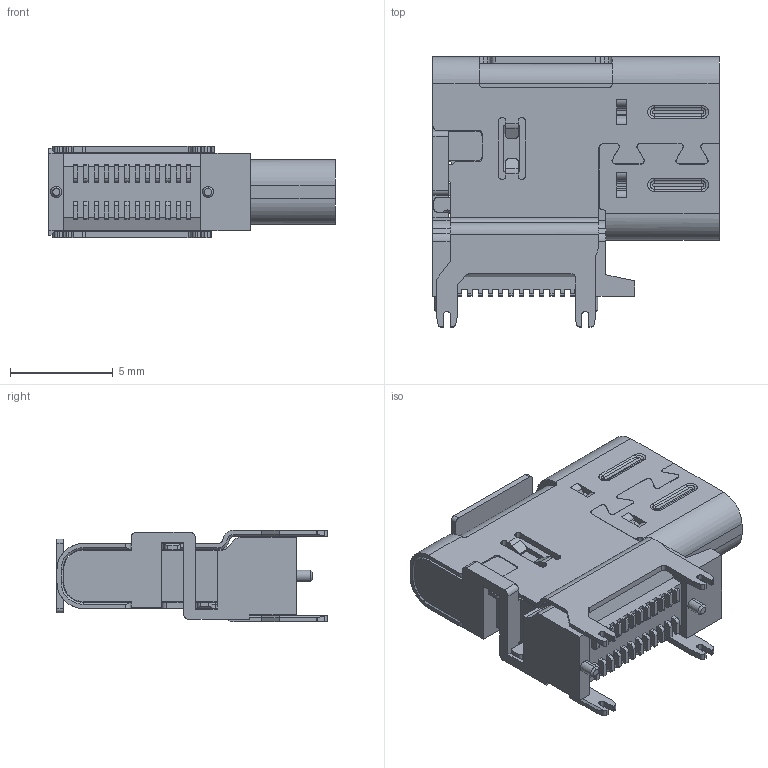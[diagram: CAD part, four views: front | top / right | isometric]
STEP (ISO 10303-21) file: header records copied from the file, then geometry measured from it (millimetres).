
FILE_DESCRIPTION (( 'STEP AP203' ), '1' );
FILE_NAME ('GT-USB-7092C.STEP', '2023-11-21T02:57:42', ( 'Microsoft' ), ( 'Microsoft' ), 'SwSTEP 2.0', 'SolidWorks 2023', '' );
FILE_SCHEMA (( 'CONFIG_CONTROL_DESIGN' ));
Length unit declared in the file: millimetre
Products named in the file (1): GT-USB-7092C
Bounding box: 13.95 x 13.17 x 4.46 mm (x, y, z)
Volume: 389.7 mm3; surface area: 1085.1 mm2
Topology: 1 solids, 1 shells, 1121 faces, 3215 edges, 2109 vertices
Faces by surface type: plane 760, cylinder 249, bspline 86, cone 22, torus 4
Entity records: 40889 total; most frequent: CARTESIAN_POINT 12391, ORIENTED_EDGE 6430, DIRECTION 5120, EDGE_CURVE 3215, VECTOR 2452, LINE 2452, VERTEX_POINT 2109, AXIS2_PLACEMENT_3D 1334
